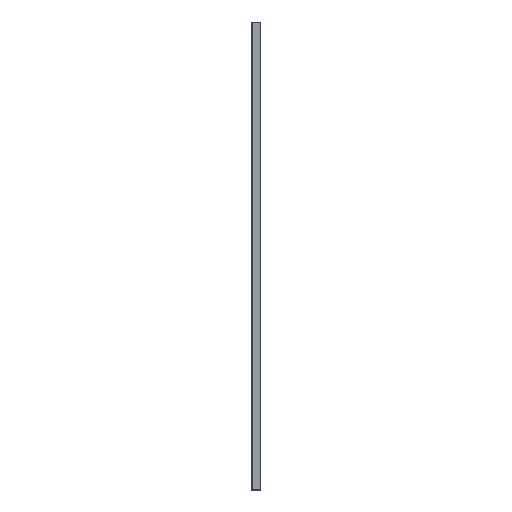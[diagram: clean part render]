
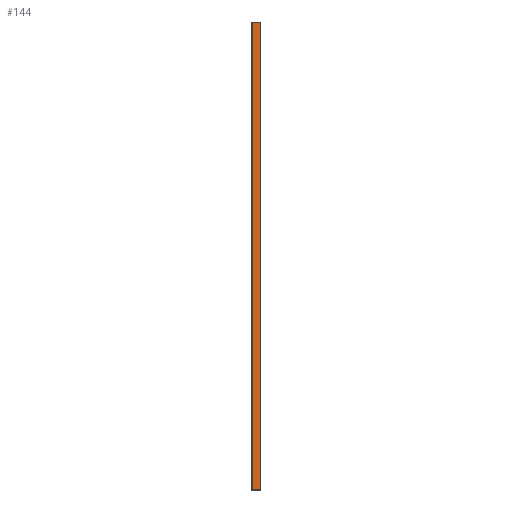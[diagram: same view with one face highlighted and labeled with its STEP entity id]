
A CAD part, left-side view. The second image highlights one B-rep face of the part: STEP entity #144.
In plain terms, the highlighted planar face has unit normal (-1, 0, 0).
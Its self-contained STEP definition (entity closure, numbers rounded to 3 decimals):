
#45 = CARTESIAN_POINT ( 'NONE',  ( -601.5, -20., -950. ) ) ;
#61 = VECTOR ( 'NONE', #488, 1000. ) ;
#97 = DIRECTION ( 'NONE',  ( 0., 0., 1. ) ) ;
#123 = VERTEX_POINT ( 'NONE', #1096 ) ;
#143 = FACE_OUTER_BOUND ( 'NONE', #965, .T. ) ;
#144 = ADVANCED_FACE ( 'NONE', ( #143 ), #666, .T. ) ;
#172 = EDGE_CURVE ( 'NONE', #828, #751, #406, .T. ) ;
#200 = CARTESIAN_POINT ( 'NONE',  ( -601.5, 0., 50. ) ) ;
#217 = CARTESIAN_POINT ( 'NONE',  ( -601.5, -20., 50. ) ) ;
#231 = ORIENTED_EDGE ( 'NONE', *, *, #769, .T. ) ;
#248 = ORIENTED_EDGE ( 'NONE', *, *, #172, .T. ) ;
#306 = ORIENTED_EDGE ( 'NONE', *, *, #450, .F. ) ;
#406 = LINE ( 'NONE', #495, #719 ) ;
#450 = EDGE_CURVE ( 'NONE', #123, #503, #792, .T. ) ;
#488 = DIRECTION ( 'NONE',  ( 0., 0., 1. ) ) ;
#495 = CARTESIAN_POINT ( 'NONE',  ( -601.5, -20., 50. ) ) ;
#503 = VERTEX_POINT ( 'NONE', #979 ) ;
#539 = CARTESIAN_POINT ( 'NONE',  ( -601.5, -20., -950. ) ) ;
#556 = CARTESIAN_POINT ( 'NONE',  ( -601.5, 0., -950. ) ) ;
#666 = PLANE ( 'NONE',  #940 ) ;
#707 = CARTESIAN_POINT ( 'NONE',  ( -601.5, -20., -950. ) ) ;
#709 = ORIENTED_EDGE ( 'NONE', *, *, #835, .F. ) ;
#716 = VECTOR ( 'NONE', #97, 1000. ) ;
#719 = VECTOR ( 'NONE', #997, 1000. ) ;
#726 = LINE ( 'NONE', #707, #716 ) ;
#751 = VERTEX_POINT ( 'NONE', #200 ) ;
#769 = EDGE_CURVE ( 'NONE', #123, #828, #726, .T. ) ;
#792 = LINE ( 'NONE', #539, #1027 ) ;
#828 = VERTEX_POINT ( 'NONE', #217 ) ;
#835 = EDGE_CURVE ( 'NONE', #503, #751, #915, .T. ) ;
#874 = DIRECTION ( 'NONE',  ( 0., 1., 0. ) ) ;
#915 = LINE ( 'NONE', #556, #61 ) ;
#940 = AXIS2_PLACEMENT_3D ( 'NONE', #45, #1004, #1013 ) ;
#965 = EDGE_LOOP ( 'NONE', ( #709, #306, #231, #248 ) ) ;
#979 = CARTESIAN_POINT ( 'NONE',  ( -601.5, 0., -950. ) ) ;
#997 = DIRECTION ( 'NONE',  ( 0., 1., 0. ) ) ;
#1004 = DIRECTION ( 'NONE',  ( -1., 0., 0. ) ) ;
#1013 = DIRECTION ( 'NONE',  ( 0., 0., 1. ) ) ;
#1027 = VECTOR ( 'NONE', #874, 1000. ) ;
#1096 = CARTESIAN_POINT ( 'NONE',  ( -601.5, -20., -950. ) ) ;
